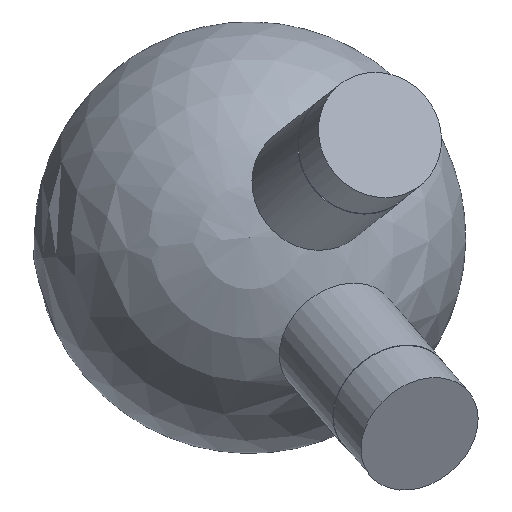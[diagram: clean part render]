
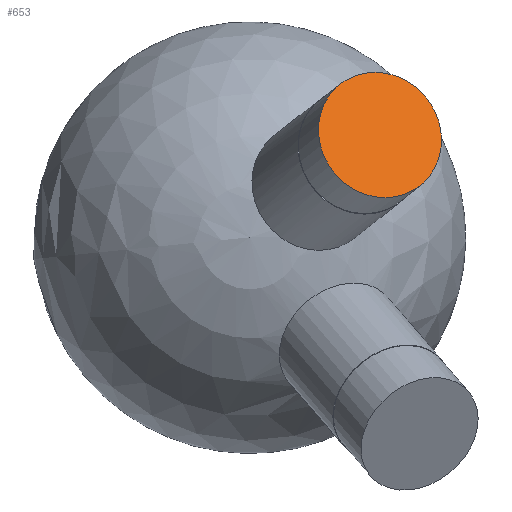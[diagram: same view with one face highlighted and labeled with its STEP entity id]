
A CAD part, top view. The second image highlights one B-rep face of the part: STEP entity #653.
In plain terms, the highlighted planar face has unit normal (0.309, 0.242, 0.92).
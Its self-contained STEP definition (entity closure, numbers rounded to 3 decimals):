
#497 = CYLINDRICAL_SURFACE('',#498,5.95);
#498 = AXIS2_PLACEMENT_3D('',#499,#500,#501);
#499 = CARTESIAN_POINT('',(10.109,7.934,30.1
    ));
#500 = DIRECTION('',(0.309,0.242,0.92));
#501 = DIRECTION('',(0.948,0.,-0.318)
  );
#547 = EDGE_CURVE('',#548,#548,#550,.T.);
#548 = VERTEX_POINT('',#549);
#549 = CARTESIAN_POINT('',(17.603,9.388,
    33.723));
#550 = SURFACE_CURVE('',#551,(#556,#563),.PCURVE_S1.);
#551 = CIRCLE('',#552,5.95);
#552 = AXIS2_PLACEMENT_3D('',#553,#554,#555);
#553 = CARTESIAN_POINT('',(11.963,9.388,
    35.618));
#554 = DIRECTION('',(0.309,0.242,0.92));
#555 = DIRECTION('',(0.948,0.,-0.318)
  );
#556 = PCURVE('',#497,#557);
#557 = DEFINITIONAL_REPRESENTATION('',(#558),#562);
#558 = LINE('',#559,#560);
#559 = CARTESIAN_POINT('',(0.,6.));
#560 = VECTOR('',#561,1.);
#561 = DIRECTION('',(1.,0.));
#562 = ( GEOMETRIC_REPRESENTATION_CONTEXT(2) 
PARAMETRIC_REPRESENTATION_CONTEXT() REPRESENTATION_CONTEXT('2D SPACE',''
  ) );
#563 = PCURVE('',#564,#569);
#564 = PLANE('',#565);
#565 = AXIS2_PLACEMENT_3D('',#566,#567,#568);
#566 = CARTESIAN_POINT('',(11.963,9.388,
    35.618));
#567 = DIRECTION('',(0.309,0.242,0.92));
#568 = DIRECTION('',(0.948,0.,-0.318)
  );
#569 = DEFINITIONAL_REPRESENTATION('',(#570),#574);
#570 = CIRCLE('',#571,5.95);
#571 = AXIS2_PLACEMENT_2D('',#572,#573);
#572 = CARTESIAN_POINT('',(0.,0.));
#573 = DIRECTION('',(1.,0.));
#574 = ( GEOMETRIC_REPRESENTATION_CONTEXT(2) 
PARAMETRIC_REPRESENTATION_CONTEXT() REPRESENTATION_CONTEXT('2D SPACE',''
  ) );
#653 = ADVANCED_FACE('',(#654),#564,.T.);
#654 = FACE_BOUND('',#655,.T.);
#655 = EDGE_LOOP('',(#656));
#656 = ORIENTED_EDGE('',*,*,#547,.T.);
